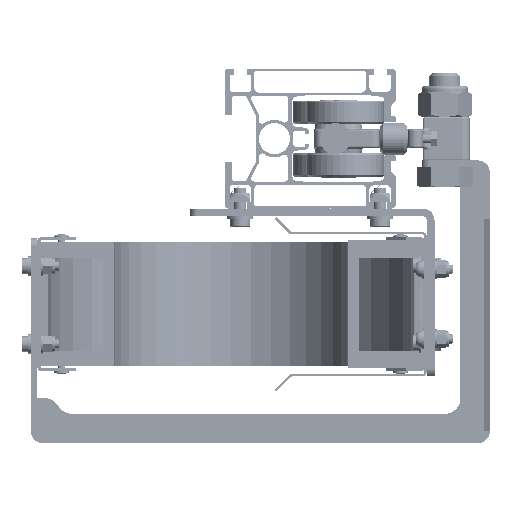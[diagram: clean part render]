
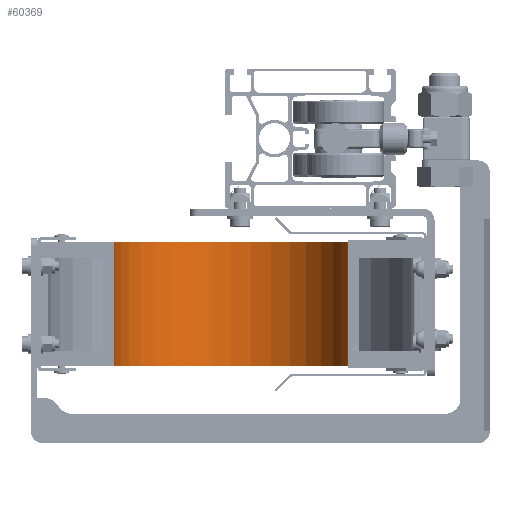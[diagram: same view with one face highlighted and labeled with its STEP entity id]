
A CAD part, left-side view. The second image highlights one B-rep face of the part: STEP entity #60369.
In plain terms, the highlighted cylindrical face has radius 75.5 mm (diameter 151 mm), a partial arc.
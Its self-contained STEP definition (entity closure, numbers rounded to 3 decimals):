
#468 = ORIENTED_EDGE ( 'NONE', *, *, #76430, .F. ) ;
#5483 = FACE_OUTER_BOUND ( 'NONE', #29027, .T. ) ;
#6350 = DIRECTION ( 'NONE',  ( 1., 0., 0. ) ) ;
#17688 = CARTESIAN_POINT ( 'NONE',  ( 0., -24.5, 40. ) ) ;
#18745 = VERTEX_POINT ( 'NONE', #49390 ) ;
#19638 = VERTEX_POINT ( 'NONE', #49072 ) ;
#23733 = CARTESIAN_POINT ( 'NONE',  ( 0., -100., -40. ) ) ;
#26942 = DIRECTION ( 'NONE',  ( 1., 0., 0. ) ) ;
#29027 = EDGE_LOOP ( 'NONE', ( #468, #107667, #47387, #40717 ) ) ;
#39327 = DIRECTION ( 'NONE',  ( 0., 0., 1. ) ) ;
#40717 = ORIENTED_EDGE ( 'NONE', *, *, #92427, .F. ) ;
#41305 = EDGE_CURVE ( 'NONE', #50788, #72900, #73296, .T. ) ;
#45445 = DIRECTION ( 'NONE',  ( 1., 0., 0. ) ) ;
#47387 = ORIENTED_EDGE ( 'NONE', *, *, #41305, .F. ) ;
#49072 = CARTESIAN_POINT ( 'NONE',  ( 0., -175.5, -40. ) ) ;
#49139 = VECTOR ( 'NONE', #69298, 1000. ) ;
#49390 = CARTESIAN_POINT ( 'NONE',  ( 0., -24.5, -40. ) ) ;
#50788 = VERTEX_POINT ( 'NONE', #67527 ) ;
#51291 = CARTESIAN_POINT ( 'NONE',  ( 0., -24.5, 0. ) ) ;
#57423 = EDGE_CURVE ( 'NONE', #72900, #18745, #94956, .T. ) ;
#60369 = ADVANCED_FACE ( 'NONE', ( #5483 ), #91720, .F. ) ;
#61116 = AXIS2_PLACEMENT_3D ( 'NONE', #85726, #69879, #26942 ) ;
#61349 = CARTESIAN_POINT ( 'NONE',  ( 0., -100., 0. ) ) ;
#64315 = AXIS2_PLACEMENT_3D ( 'NONE', #61349, #70296, #45445 ) ;
#67527 = CARTESIAN_POINT ( 'NONE',  ( 0., -175.5, 40. ) ) ;
#69298 = DIRECTION ( 'NONE',  ( 0., 0., -1. ) ) ;
#69879 = DIRECTION ( 'NONE',  ( 0., 0., -1. ) ) ;
#70296 = DIRECTION ( 'NONE',  ( 0., 0., 1. ) ) ;
#72900 = VERTEX_POINT ( 'NONE', #17688 ) ;
#73296 = CIRCLE ( 'NONE', #61116, 75.5 ) ;
#76430 = EDGE_CURVE ( 'NONE', #18745, #19638, #104742, .T. ) ;
#79120 = VECTOR ( 'NONE', #39327, 1000. ) ;
#81575 = CARTESIAN_POINT ( 'NONE',  ( 0., -175.5, 0. ) ) ;
#84050 = DIRECTION ( 'NONE',  ( 0., 0., 1. ) ) ;
#85726 = CARTESIAN_POINT ( 'NONE',  ( 0., -100., 40. ) ) ;
#91720 = CYLINDRICAL_SURFACE ( 'NONE', #64315, 75.5 ) ;
#92427 = EDGE_CURVE ( 'NONE', #19638, #50788, #106090, .T. ) ;
#94956 = LINE ( 'NONE', #51291, #49139 ) ;
#103909 = AXIS2_PLACEMENT_3D ( 'NONE', #23733, #84050, #6350 ) ;
#104742 = CIRCLE ( 'NONE', #103909, 75.5 ) ;
#106090 = LINE ( 'NONE', #81575, #79120 ) ;
#107667 = ORIENTED_EDGE ( 'NONE', *, *, #57423, .F. ) ;
